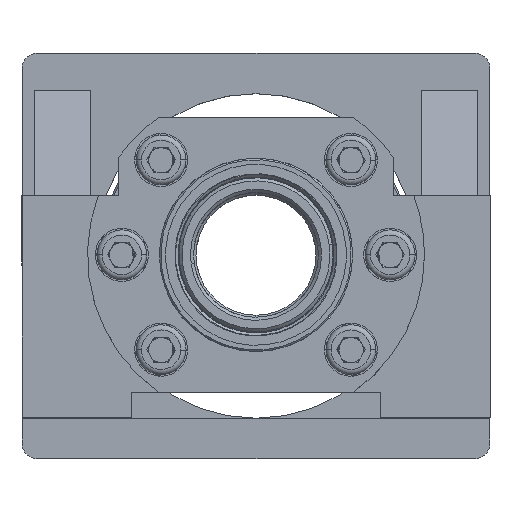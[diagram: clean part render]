
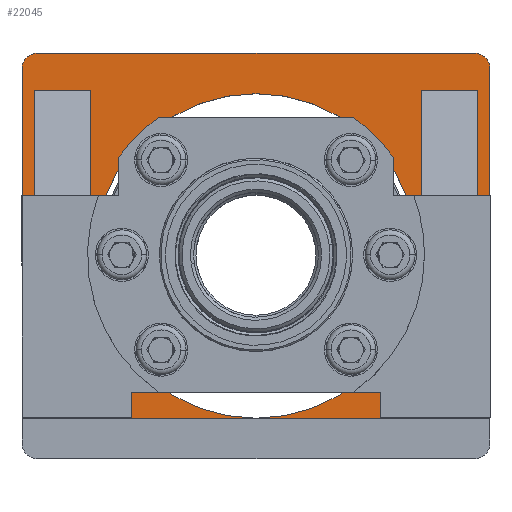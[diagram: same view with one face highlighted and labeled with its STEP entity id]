
A CAD part, top view. The second image highlights one B-rep face of the part: STEP entity #22045.
In plain terms, the highlighted planar face has unit normal (0, 0, 1).
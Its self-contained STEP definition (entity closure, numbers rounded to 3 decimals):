
#95 = CARTESIAN_POINT ( 'NONE',  ( -75., 65., 22. ) ) ;
#164 = DIRECTION ( 'NONE',  ( 0., -1., 0. ) ) ;
#173 = DIRECTION ( 'NONE',  ( 0., -1., 0. ) ) ;
#281 = CARTESIAN_POINT ( 'NONE',  ( 53., -52., 22. ) ) ;
#311 = AXIS2_PLACEMENT_3D ( 'NONE', #20259, #8961, #22150 ) ;
#672 = VECTOR ( 'NONE', #173, 1000. ) ;
#832 = LINE ( 'NONE', #22003, #10923 ) ;
#1056 = CARTESIAN_POINT ( 'NONE',  ( -71., 53., 22. ) ) ;
#1094 = ORIENTED_EDGE ( 'NONE', *, *, #17969, .T. ) ;
#1194 = CARTESIAN_POINT ( 'NONE',  ( 0., 0., 22. ) ) ;
#1232 = EDGE_CURVE ( 'NONE', #20693, #3182, #6221, .T. ) ;
#1278 = LINE ( 'NONE', #95, #672 ) ;
#1299 = CARTESIAN_POINT ( 'NONE',  ( 70., 65., 22. ) ) ;
#1324 = VERTEX_POINT ( 'NONE', #3788 ) ;
#1521 = EDGE_CURVE ( 'NONE', #19966, #1324, #3834, .T. ) ;
#1698 = ORIENTED_EDGE ( 'NONE', *, *, #16426, .F. ) ;
#1895 = ORIENTED_EDGE ( 'NONE', *, *, #18716, .T. ) ;
#2044 = VECTOR ( 'NONE', #7038, 1000. ) ;
#2161 = EDGE_CURVE ( 'NONE', #5743, #11790, #3862, .T. ) ;
#2272 = AXIS2_PLACEMENT_3D ( 'NONE', #6902, #5087, #18280 ) ;
#2770 = CIRCLE ( 'NONE', #311, 5. ) ;
#2912 = FACE_BOUND ( 'NONE', #20696, .T. ) ;
#3103 = DIRECTION ( 'NONE',  ( 1., 0., 0. ) ) ;
#3182 = VERTEX_POINT ( 'NONE', #20562 ) ;
#3183 = DIRECTION ( 'NONE',  ( 1., 0., 0. ) ) ;
#3187 = PLANE ( 'NONE',  #2272 ) ;
#3207 = LINE ( 'NONE', #7029, #7634 ) ;
#3232 = CARTESIAN_POINT ( 'NONE',  ( -76.047, -52.01, 22. ) ) ;
#3379 = EDGE_CURVE ( 'NONE', #8722, #20693, #7101, .T. ) ;
#3718 = CARTESIAN_POINT ( 'NONE',  ( -53., 17., 22. ) ) ;
#3788 = CARTESIAN_POINT ( 'NONE',  ( 71., -52., 22. ) ) ;
#3817 = DIRECTION ( 'NONE',  ( -1., 0., 0. ) ) ;
#3834 = LINE ( 'NONE', #281, #13307 ) ;
#3862 = CIRCLE ( 'NONE', #5975, 52. ) ;
#3963 = CARTESIAN_POINT ( 'NONE',  ( -70., 65., 22. ) ) ;
#4094 = DIRECTION ( 'NONE',  ( 1., 0., 0. ) ) ;
#4250 = VERTEX_POINT ( 'NONE', #1299 ) ;
#4336 = ORIENTED_EDGE ( 'NONE', *, *, #2161, .F. ) ;
#4414 = EDGE_LOOP ( 'NONE', ( #9380, #24480, #4940, #19994, #1094, #11176 ) ) ;
#4940 = ORIENTED_EDGE ( 'NONE', *, *, #1232, .T. ) ;
#5084 = CARTESIAN_POINT ( 'NONE',  ( -71., -52., 22. ) ) ;
#5087 = DIRECTION ( 'NONE',  ( 0., 0., 1. ) ) ;
#5510 = EDGE_CURVE ( 'NONE', #23800, #10324, #3207, .T. ) ;
#5743 = VERTEX_POINT ( 'NONE', #20556 ) ;
#5975 = AXIS2_PLACEMENT_3D ( 'NONE', #18758, #7477, #20672 ) ;
#5988 = DIRECTION ( 'NONE',  ( -1., 0., 0. ) ) ;
#6221 = LINE ( 'NONE', #22526, #15649 ) ;
#6696 = CARTESIAN_POINT ( 'NONE',  ( 75., -52.01, 22. ) ) ;
#6741 = ORIENTED_EDGE ( 'NONE', *, *, #5510, .F. ) ;
#6902 = CARTESIAN_POINT ( 'NONE',  ( -75., -65., 22. ) ) ;
#7029 = CARTESIAN_POINT ( 'NONE',  ( -71., 17., 22. ) ) ;
#7038 = DIRECTION ( 'NONE',  ( 1., 0., 0. ) ) ;
#7101 = LINE ( 'NONE', #3232, #2044 ) ;
#7477 = DIRECTION ( 'NONE',  ( 0., 0., 1. ) ) ;
#7634 = VECTOR ( 'NONE', #8839, 1000. ) ;
#7689 = EDGE_LOOP ( 'NONE', ( #13229, #4336 ) ) ;
#7902 = ORIENTED_EDGE ( 'NONE', *, *, #11662, .F. ) ;
#8430 = AXIS2_PLACEMENT_3D ( 'NONE', #10378, #23574, #12278 ) ;
#8493 = ORIENTED_EDGE ( 'NONE', *, *, #10251, .F. ) ;
#8576 = CIRCLE ( 'NONE', #8430, 5. ) ;
#8722 = VERTEX_POINT ( 'NONE', #10125 ) ;
#8812 = DIRECTION ( 'NONE',  ( -1., 0., 0. ) ) ;
#8839 = DIRECTION ( 'NONE',  ( 0., -1., 0. ) ) ;
#8961 = DIRECTION ( 'NONE',  ( 0., 0., 1. ) ) ;
#8996 = EDGE_CURVE ( 'NONE', #14468, #21864, #2770, .T. ) ;
#9220 = VECTOR ( 'NONE', #20638, 1000. ) ;
#9380 = ORIENTED_EDGE ( 'NONE', *, *, #9919, .T. ) ;
#9513 = CARTESIAN_POINT ( 'NONE',  ( -75., 53., 22. ) ) ;
#9795 = LINE ( 'NONE', #3718, #9220 ) ;
#9919 = EDGE_CURVE ( 'NONE', #21864, #8722, #1278, .T. ) ;
#10125 = CARTESIAN_POINT ( 'NONE',  ( -75., -52.01, 22. ) ) ;
#10172 = EDGE_CURVE ( 'NONE', #11790, #5743, #22829, .T. ) ;
#10251 = EDGE_CURVE ( 'NONE', #22019, #17222, #17206, .T. ) ;
#10324 = VERTEX_POINT ( 'NONE', #15278 ) ;
#10378 = CARTESIAN_POINT ( 'NONE',  ( 70., 60., 22. ) ) ;
#10923 = VECTOR ( 'NONE', #8812, 1000. ) ;
#11176 = ORIENTED_EDGE ( 'NONE', *, *, #8996, .T. ) ;
#11214 = CARTESIAN_POINT ( 'NONE',  ( -53., 53., 22. ) ) ;
#11343 = CARTESIAN_POINT ( 'NONE',  ( 53., 17., 22. ) ) ;
#11480 = CARTESIAN_POINT ( 'NONE',  ( -52., 0., 22. ) ) ;
#11620 = VECTOR ( 'NONE', #3817, 1000. ) ;
#11662 = EDGE_CURVE ( 'NONE', #16386, #17789, #9795, .T. ) ;
#11749 = ORIENTED_EDGE ( 'NONE', *, *, #15698, .F. ) ;
#11790 = VERTEX_POINT ( 'NONE', #11480 ) ;
#12278 = DIRECTION ( 'NONE',  ( 1., 0., 0. ) ) ;
#12667 = VECTOR ( 'NONE', #3183, 1000. ) ;
#12950 = ORIENTED_EDGE ( 'NONE', *, *, #1521, .F. ) ;
#13229 = ORIENTED_EDGE ( 'NONE', *, *, #10172, .F. ) ;
#13307 = VECTOR ( 'NONE', #4094, 1000. ) ;
#13650 = VECTOR ( 'NONE', #5988, 1000. ) ;
#13817 = VECTOR ( 'NONE', #18970, 1000. ) ;
#14412 = CARTESIAN_POINT ( 'NONE',  ( 71., 53., 22. ) ) ;
#14416 = DIRECTION ( 'NONE',  ( 0., 0., 1. ) ) ;
#14468 = VERTEX_POINT ( 'NONE', #3963 ) ;
#14779 = EDGE_LOOP ( 'NONE', ( #12950, #22965, #8493, #1895 ) ) ;
#15030 = FACE_OUTER_BOUND ( 'NONE', #4414, .T. ) ;
#15278 = CARTESIAN_POINT ( 'NONE',  ( -71., -52., 22. ) ) ;
#15649 = VECTOR ( 'NONE', #20632, 1000. ) ;
#15698 = EDGE_CURVE ( 'NONE', #17789, #23800, #832, .T. ) ;
#15985 = VECTOR ( 'NONE', #164, 1000. ) ;
#16054 = CARTESIAN_POINT ( 'NONE',  ( -75., 60., 22. ) ) ;
#16295 = CARTESIAN_POINT ( 'NONE',  ( -53., -52., 22. ) ) ;
#16386 = VERTEX_POINT ( 'NONE', #16295 ) ;
#16426 = EDGE_CURVE ( 'NONE', #10324, #16386, #17656, .T. ) ;
#17206 = LINE ( 'NONE', #9513, #11620 ) ;
#17222 = VERTEX_POINT ( 'NONE', #21555 ) ;
#17271 = CARTESIAN_POINT ( 'NONE',  ( -75., 65., 22. ) ) ;
#17656 = LINE ( 'NONE', #5084, #12667 ) ;
#17789 = VERTEX_POINT ( 'NONE', #11214 ) ;
#17969 = EDGE_CURVE ( 'NONE', #4250, #14468, #23095, .T. ) ;
#18280 = DIRECTION ( 'NONE',  ( 1., 0., 0. ) ) ;
#18716 = EDGE_CURVE ( 'NONE', #22019, #1324, #21002, .T. ) ;
#18758 = CARTESIAN_POINT ( 'NONE',  ( 0., 0., 22. ) ) ;
#18819 = LINE ( 'NONE', #11343, #13817 ) ;
#18970 = DIRECTION ( 'NONE',  ( 0., 1., 0. ) ) ;
#19838 = EDGE_CURVE ( 'NONE', #3182, #4250, #8576, .T. ) ;
#19966 = VERTEX_POINT ( 'NONE', #20413 ) ;
#19994 = ORIENTED_EDGE ( 'NONE', *, *, #19838, .T. ) ;
#20028 = FACE_BOUND ( 'NONE', #7689, .T. ) ;
#20259 = CARTESIAN_POINT ( 'NONE',  ( -70., 60., 22. ) ) ;
#20413 = CARTESIAN_POINT ( 'NONE',  ( 53., -52., 22. ) ) ;
#20556 = CARTESIAN_POINT ( 'NONE',  ( 52., 0., 22. ) ) ;
#20562 = CARTESIAN_POINT ( 'NONE',  ( 75., 60., 22. ) ) ;
#20632 = DIRECTION ( 'NONE',  ( 0., 1., 0. ) ) ;
#20638 = DIRECTION ( 'NONE',  ( 0., 1., 0. ) ) ;
#20672 = DIRECTION ( 'NONE',  ( 1., 0., 0. ) ) ;
#20693 = VERTEX_POINT ( 'NONE', #6696 ) ;
#20696 = EDGE_LOOP ( 'NONE', ( #1698, #6741, #11749, #7902 ) ) ;
#21002 = LINE ( 'NONE', #22800, #15985 ) ;
#21555 = CARTESIAN_POINT ( 'NONE',  ( 53., 53., 22. ) ) ;
#21864 = VERTEX_POINT ( 'NONE', #16054 ) ;
#22003 = CARTESIAN_POINT ( 'NONE',  ( -75., 53., 22. ) ) ;
#22019 = VERTEX_POINT ( 'NONE', #14412 ) ;
#22045 = ADVANCED_FACE ( 'NONE', ( #20028, #15030, #2912, #24511 ), #3187, .T. ) ;
#22150 = DIRECTION ( 'NONE',  ( 1., 0., 0. ) ) ;
#22526 = CARTESIAN_POINT ( 'NONE',  ( 75., 65., 22. ) ) ;
#22800 = CARTESIAN_POINT ( 'NONE',  ( 71., 17., 22. ) ) ;
#22829 = CIRCLE ( 'NONE', #23941, 52. ) ;
#22965 = ORIENTED_EDGE ( 'NONE', *, *, #23296, .T. ) ;
#23095 = LINE ( 'NONE', #17271, #13650 ) ;
#23296 = EDGE_CURVE ( 'NONE', #19966, #17222, #18819, .T. ) ;
#23574 = DIRECTION ( 'NONE',  ( 0., 0., 1. ) ) ;
#23800 = VERTEX_POINT ( 'NONE', #1056 ) ;
#23941 = AXIS2_PLACEMENT_3D ( 'NONE', #1194, #14416, #3103 ) ;
#24480 = ORIENTED_EDGE ( 'NONE', *, *, #3379, .T. ) ;
#24511 = FACE_BOUND ( 'NONE', #14779, .T. ) ;
